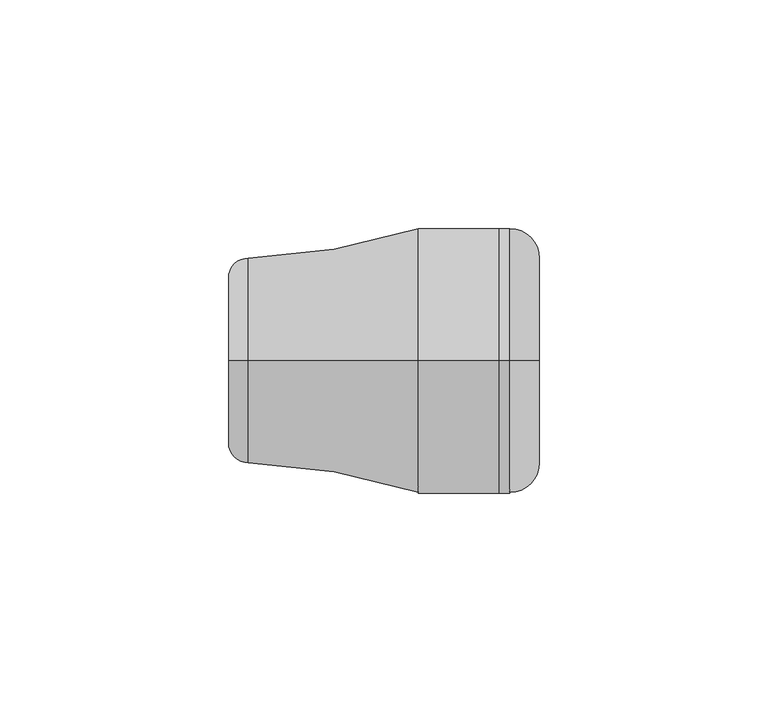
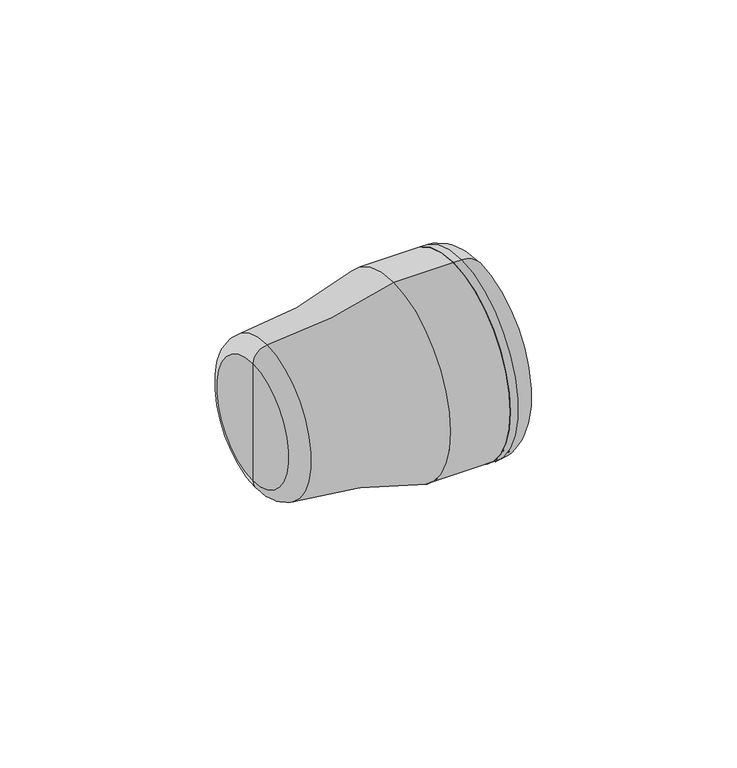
"""IFC4 building model written with IfcOpenShell, lengths in millimetres: pipe fitting geometry, Plumbing_Pipe-Fittings_Plasson_End-Plug_1012 : Plumbing_Pipe-Fittings_Plasson_End-Plug_1012."""

import ifcopenshell
import ifcopenshell.guid

model = None  # the IFC model being written
_history = None  # IfcOwnerHistory: only IFC2X3 demands one
_inside = {}  # id of a spatial element -> (the spatial element, [elements in it])
_under = {}  # id of a project, library or spatial element -> (it, [spatial elements below it])
_declared = {}  # id of a project -> (the project, [libraries it declares])
_typed = {}  # id of a type object -> (the type object, [elements of that type])
_made_of = {}  # id of a material, layer set ... -> (it, [elements and type objects made of it])


def new_model(schema):
    """Start an empty IFC model of exactly this schema.

    Asked for "IFC4X3", IfcOpenShell would pick the latest addendum, in which some entities
    have other attributes; the version numbers below select the first issue.
    IFC2X3 requires an IfcOwnerHistory on every rooted entity: one is made here for all.
    """
    global model, _history
    if schema == "IFC4X3":
        model = ifcopenshell.file(schema_version=(4, 3, 0, 0))
    else:
        model = ifcopenshell.file(schema=schema)
    _inside.clear()
    _under.clear()
    _declared.clear()
    _typed.clear()
    _made_of.clear()
    _history = None
    if model.schema == "IFC2X3":
        org = make("IfcOrganization", Name="unknown")
        user = make(
            "IfcPersonAndOrganization",
            ThePerson=make("IfcPerson", FamilyName="unknown"),
            TheOrganization=org,
        )
        app = make(
            "IfcApplication",
            ApplicationDeveloper=org,
            Version="unknown",
            ApplicationFullName="unknown",
            ApplicationIdentifier="unknown",
        )
        _history = make(
            "IfcOwnerHistory",
            OwningUser=user,
            OwningApplication=app,
            ChangeAction="ADDED",
            CreationDate=0,
        )
    return model


def make(cls, **values):
    """One entity of the class cls with the attributes given. An attribute that is None is left unset."""
    return model.create_entity(
        cls, **{name: value for name, value in values.items() if value is not None}
    )


def rooted(cls, **values):
    """An entity with a GlobalId (a new one), such as an element, a storey or a relation."""
    return make(cls, GlobalId=ifcopenshell.guid.new(), OwnerHistory=_history, **values)


def si_unit(unit_type, name, prefix=None):
    """IfcSIUnit, for example si_unit("LENGTHUNIT", "METRE", prefix="MILLI")."""
    return make("IfcSIUnit", UnitType=unit_type, Prefix=prefix, Name=name)


def assignment(units):
    """IfcUnitAssignment: the units of a project."""
    return None if units is None else make("IfcUnitAssignment", Units=units)


def point(xyz):
    """IfcCartesianPoint."""
    return None if xyz is None else make("IfcCartesianPoint", Coordinates=xyz)


def direction(xyz):
    """IfcDirection."""
    return None if xyz is None else make("IfcDirection", DirectionRatios=xyz)


def frame(location, z_axis=None, x_axis=None):
    """IfcAxis2Placement3D, a coordinate frame: its origin and axes. An axis left out is left unset."""
    return make(
        "IfcAxis2Placement3D",
        Location=point(location),
        Axis=direction(z_axis),
        RefDirection=direction(x_axis),
    )


def origin():
    """The frame at (0, 0, 0) with its axes left unset."""
    return frame((0.0, 0.0, 0.0))


def place(relative_to, where):
    """IfcLocalPlacement: puts the frame where relative to a parent placement (None: the world)."""
    return make(
        "IfcLocalPlacement", PlacementRelTo=relative_to, RelativePlacement=where
    )


def context(
    kind, dimensions, precision=None, world=None, true_north=None, identifier=None
):
    """IfcGeometricRepresentationContext, for example the 3D "Model" context."""
    return make(
        "IfcGeometricRepresentationContext",
        ContextIdentifier=identifier,
        ContextType=kind,
        CoordinateSpaceDimension=dimensions,
        Precision=precision,
        WorldCoordinateSystem=world,
        TrueNorth=true_north,
    )


def project(units=None, contexts=None):
    """IfcProject with its units and contexts."""
    return rooted(
        "IfcProject",
        Name="project",
        RepresentationContexts=contexts,
        UnitsInContext=assignment(units),
    )


def spatial(cls, under=None, at=None, **own):
    """A site, building, storey or space (cls), placed at a placement, below another one or the project."""
    s = rooted(cls, ObjectPlacement=at, **own)
    if under is not None:
        _under.setdefault(under.id(), (under, []))[1].append(s)
    return s


def polyline(points):
    """IfcPolyline through the points."""
    return make("IfcPolyline", Points=[point(p) for p in points])


def circle_curve(where, radius):
    """IfcCircle in the frame where."""
    return make("IfcCircle", Position=where, Radius=radius)


def ellipse_curve(where, semi_axis1, semi_axis2):
    """IfcEllipse in the frame where."""
    return make(
        "IfcEllipse", Position=where, SemiAxis1=semi_axis1, SemiAxis2=semi_axis2
    )


def trimmed(basis, trim1, trim2, sense, master):
    """IfcTrimmedCurve: the piece of a basis curve between two trims."""
    return make(
        "IfcTrimmedCurve",
        BasisCurve=basis,
        Trim1=trim1,
        Trim2=trim2,
        SenseAgreement=sense,
        MasterRepresentation=master,
    )


def shape(context_of_items, identifier, shape_type, items):
    """IfcShapeRepresentation: the items that make up one representation, for example the "Body"."""
    return make(
        "IfcShapeRepresentation",
        ContextOfItems=context_of_items,
        RepresentationIdentifier=identifier,
        RepresentationType=shape_type,
        Items=items,
    )


def source(mapping_origin, context_of_items, identifier, shape_type, items):
    """IfcRepresentationMap: a shape defined once, which mapped items show again and again."""
    return make(
        "IfcRepresentationMap",
        MappingOrigin=mapping_origin,
        MappedRepresentation=shape(context_of_items, identifier, shape_type, items),
    )


def transform(
    local_origin,
    x_axis=None,
    y_axis=None,
    z_axis=None,
    scale=None,
    scale2=None,
    scale3=None,
    uniform=True,
):
    """IfcCartesianTransformationOperator3D, or its non-uniform kind. x_axis, y_axis, z_axis: its Axis1, 2, 3."""
    if uniform:
        return make(
            "IfcCartesianTransformationOperator3D",
            Axis1=direction(x_axis),
            Axis2=direction(y_axis),
            LocalOrigin=point(local_origin),
            Scale=scale,
            Axis3=direction(z_axis),
        )
    return make(
        "IfcCartesianTransformationOperator3DnonUniform",
        Axis1=direction(x_axis),
        Axis2=direction(y_axis),
        LocalOrigin=point(local_origin),
        Scale=scale,
        Axis3=direction(z_axis),
        Scale2=scale2,
        Scale3=scale3,
    )


def mapped(mapping_source, mapping_target):
    """IfcMappedItem: shows the shape of a source again, moved by a transform."""
    return make(
        "IfcMappedItem", MappingSource=mapping_source, MappingTarget=mapping_target
    )


def made_of(thing, what):
    """Note that an element or type object is made of a material, layer set ...; save() writes the relation."""
    if what is not None:
        _made_of.setdefault(what.id(), (what, []))[1].append(thing)
    return thing


def element(
    cls,
    number,
    at=None,
    inside=None,
    cuts=None,
    type_object=None,
    material=None,
    context=None,
    identifier="Body",
    shape_type=None,
    held_by="IfcProductDefinitionShape",
    body=None,
    shapes=None,
    **own,
):
    """One element of the class cls, such as IfcWall. Its Tag is "e" and its number.

    at: its placement. inside: the storey or other place that contains it. cuts: it is an
    opening in that element (IfcRelVoidsElement). A single representation is given by context,
    identifier, shape_type and body (its items); several are given by shapes. held_by: the class
    of the entity that holds the representations. save() writes the other relations.
    """
    e = rooted(cls, Tag="e%d" % number, ObjectPlacement=at, **own)
    if body is not None:
        shapes = [shape(context, identifier, shape_type, body)]
    if shapes is not None:
        e.Representation = make(held_by, Representations=shapes)
    if inside is not None:
        _inside.setdefault(inside.id(), (inside, []))[1].append(e)
    if cuts is not None:
        rooted(
            "IfcRelVoidsElement", RelatingBuildingElement=cuts, RelatedOpeningElement=e
        )
    if type_object is not None:
        _typed.setdefault(type_object.id(), (type_object, []))[1].append(e)
    return made_of(e, material)


def aggregate(whole, parts):
    """IfcRelAggregates: a whole, such as a stair, and the parts it consists of."""
    return rooted("IfcRelAggregates", RelatingObject=whole, RelatedObjects=parts)


def save(model, path):
    """Write the relations noted so far, then the file.

    IfcRelAggregates (storeys below a building ...), IfcRelContainedInSpatialStructure (elements
    in a storey), IfcRelDefinesByType, IfcRelAssociatesMaterial and IfcRelDeclares: one each for
    every whole, place, type object, material and project.
    """
    for whole, parts in _under.values():
        aggregate(whole, parts)
    for where, things in _inside.values():
        rooted(
            "IfcRelContainedInSpatialStructure",
            RelatedElements=things,
            RelatingStructure=where,
        )
    for kind, things in _typed.values():
        rooted("IfcRelDefinesByType", RelatedObjects=things, RelatingType=kind)
    for what, things in _made_of.values():
        rooted("IfcRelAssociatesMaterial", RelatedObjects=things, RelatingMaterial=what)
    for by, libraries in _declared.values():
        rooted("IfcRelDeclares", RelatingContext=by, RelatedDefinitions=libraries)
    model.write(path)


def plane_surface(at):
    """IfcPlane: the flat surface through the origin of the frame at, square to its z axis."""
    return make("IfcPlane", Position=at)


def cylinder_surface(at, radius):
    """IfcCylindricalSurface: all points at the distance radius from the z axis of the frame at."""
    return make("IfcCylindricalSurface", Position=at, Radius=radius)


def revolved_surface(curve, axis_point, axis_direction):
    """IfcSurfaceOfRevolution: the curve turned about the line through axis_point along axis_direction."""
    return make(
        "IfcSurfaceOfRevolution",
        SweptCurve=make("IfcArbitraryOpenProfileDef", ProfileType="CURVE", Curve=curve),
        AxisPosition=make("IfcAxis1Placement", Location=point(axis_point), Axis=direction(axis_direction)),
    )


def advanced_brep(points, edges, surfaces, faces):
    """IfcAdvancedBrep: a solid bounded by faces that lie on surfaces and meet in shared edges.

    An edge is (start, end): straight between two places in points (the first is 0);
    or (start, end, curve); or (start, end, curve, False) where it runs against its curve.
    A face is (place in surfaces, loops), or (place, loops, False) where it looks against
    its surface's normal. A loop lists edges by number (the first is 1), with a minus sign
    where the edge is run from its end to its start. The first loop is the outer one.
    """
    corners = [point(p) for p in points]
    vertices = [make("IfcVertexPoint", VertexGeometry=c) for c in corners]
    made = []
    for start, end, *more in edges:
        made.append(
            make(
                "IfcEdgeCurve",
                EdgeStart=vertices[start],
                EdgeEnd=vertices[end],
                EdgeGeometry=more[0] if more else make("IfcPolyline", Points=[corners[start], corners[end]]),
                SameSense=more[1] if len(more) > 1 else True,
            )
        )
    hull = []
    for where, loops, *sense in faces:
        bounds = []
        for j, loop in enumerate(loops):
            ring = [make("IfcOrientedEdge", EdgeElement=made[abs(k) - 1], Orientation=k > 0) for k in loop]
            bounds.append(
                make(
                    "IfcFaceOuterBound" if j == 0 else "IfcFaceBound",
                    Bound=make("IfcEdgeLoop", EdgeList=ring),
                    Orientation=True,
                )
            )
        hull.append(make("IfcAdvancedFace", Bounds=bounds, FaceSurface=surfaces[where], SameSense=sense[0] if sense else True))
    return make("IfcAdvancedBrep", Outer=make("IfcClosedShell", CfsFaces=hull))


def pipe_fitting_3032ae4f(model_context):
    return source(origin(), model_context, "Body", "AdvancedBrep", [
        advanced_brep(
        [(68.8817136, 0.0, -16.0), (68.8817136, 0.0, 16.0), (60.0483803, 0.0, 16.0), (60.0483803, 0.0, -16.0), (68.8817136, 0.0, -22.5), (68.8817136, 0.0, 22.5), (62.3817136, 0.0, -29.0), (62.3817136, 0.0, 29.0), (60.0483803, 0.0, -29.0), (60.0483803, 0.0, 29.0)],
        [
            (0, 1, circle_curve(frame((68.8817136, 0.0, 0.0), z_axis=(1.0, 0.0, 0.0), x_axis=(0.0, 0.0, 1.0)), 16.0)),
            (1, 2),
            (2, 3, circle_curve(frame((60.0483803, 0.0, 0.0), z_axis=(-1.0, 0.0, 0.0), x_axis=(0.0, 0.0, 1.0)), 16.0)),
            (3, 0),
            (1, 0, circle_curve(frame((68.8817136, 0.0, 0.0), z_axis=(1.0, 0.0, 0.0), x_axis=(0.0, 0.0, 1.0)), 16.0)),
            (3, 2, circle_curve(frame((60.0483803, 0.0, 0.0), z_axis=(-1.0, 0.0, 0.0), x_axis=(0.0, 0.0, 1.0)), 16.0)),
            (4, 5, circle_curve(frame((68.8817136, 0.0, 0.0), z_axis=(1.0, 0.0, 0.0), x_axis=(0.0, 0.0, 1.0)), 22.5)),
            (5, 1),
            (0, 4),
            (5, 4, circle_curve(frame((68.8817136, 0.0, 0.0), z_axis=(1.0, 0.0, 0.0), x_axis=(0.0, 0.0, 1.0)), 22.5)),
            (6, 7, circle_curve(frame((62.3817136, 0.0, 0.0), z_axis=(1.0, 0.0, 0.0), x_axis=(0.0, 0.0, 1.0)), 29.0)),
            (7, 5, circle_curve(frame((62.3817136, 0.0, 22.5), z_axis=(0.0, 1.0, 0.0), x_axis=(1.0, 0.0, 0.0)), 6.5)),
            (4, 6, circle_curve(frame((62.3817136, 0.0, -22.5), z_axis=(0.0, 1.0, 0.0), x_axis=(1.0, 0.0, 0.0)), 6.5)),
            (7, 6, circle_curve(frame((62.3817136, 0.0, 0.0), z_axis=(1.0, 0.0, 0.0), x_axis=(0.0, 0.0, 1.0)), 29.0)),
            (8, 9, circle_curve(frame((60.0483803, 0.0, 0.0), z_axis=(1.0, 0.0, 0.0), x_axis=(0.0, 0.0, 1.0)), 29.0)),
            (9, 7),
            (6, 8),
            (9, 8, circle_curve(frame((60.0483803, 0.0, 0.0), z_axis=(1.0, 0.0, 0.0), x_axis=(0.0, 0.0, 1.0)), 29.0)),
            (2, 9),
            (8, 3),
        ],
        [
            revolved_surface(polyline([(60.0483803, 0.0, 16.0), (68.8817136, 0.0, 16.0)]), (46.8288773, 0.0, 0.0), (-1.0, 0.0, 0.0)),
            plane_surface(frame((68.8817136, 0.0, 0.0), z_axis=(1.0, 0.0, 0.0), x_axis=(0.0, 0.0, 1.0))),
            revolved_surface(trimmed(ellipse_curve(frame((62.3817136, 0.0, 22.5), z_axis=(0.0, -1.0, 0.0), x_axis=(1.0, 0.0, 0.0)), 6.5, 6.5), [point((68.8817136, 0.0, 22.5))], [point((62.3817136, 0.0, 29.0))], True, "CARTESIAN"), (46.8288773, 0.0, 0.0), (-1.0, 0.0, 0.0)),
            cylinder_surface(frame((46.8288773, 0.0, 0.0), z_axis=(-1.0, 0.0, 0.0), x_axis=(0.0, 0.0, 1.0)), 29.0),
            plane_surface(frame((60.0483803, 0.0, 0.0), z_axis=(-1.0, 0.0, 0.0), x_axis=(0.0, 0.0, 1.0))),
        ],
        [
            (0, [[1, 2, 3, 4]]),
            (0, [[5, -4, 6, -2]]),
            (1, [[7, 8, -1, 9]]),
            (1, [[10, -9, -5, -8]]),
            (2, [[11, 12, -7, 13]]),
            (2, [[14, -13, -10, -12]]),
            (3, [[15, 16, -11, 17]]),
            (3, [[18, -17, -14, -16]]),
            (4, [[-3, 19, -15, 20]]),
            (4, [[-6, -20, -18, -19]]),
        ],
    ),
        advanced_brep(
        [(42.3817136, 0.0, -29.0), (42.3817136, 0.0, 29.0), (60.0483803, 0.0, 29.0), (60.0483803, 0.0, -29.0), (5.215047, 0.0, -22.5), (5.215047, 0.0, 22.5), (0.8817136, 0.0, 0.0), (0.8817136, 0.0, 18.1666667), (0.8817136, 0.0, -18.1666667), (15.8817136, 0.0, -16.0), (15.8817136, 0.0, 16.0), (15.8817136, 0.0, 0.0), (60.0483803, 0.0, -16.0), (60.0483803, 0.0, 16.0)],
        [
            (0, 1, circle_curve(frame((42.3817136, 0.0, 0.0), z_axis=(1.0, 0.0, 0.0), x_axis=(0.0, 0.0, 1.0)), 29.0)),
            (1, 2),
            (2, 3, circle_curve(frame((60.0483803, 0.0, 0.0), z_axis=(-1.0, 0.0, 0.0), x_axis=(0.0, 0.0, 1.0)), 29.0)),
            (3, 0),
            (1, 0, circle_curve(frame((42.3817136, 0.0, 0.0), z_axis=(1.0, 0.0, 0.0), x_axis=(0.0, 0.0, 1.0)), 29.0)),
            (3, 2, circle_curve(frame((60.0483803, 0.0, 0.0), z_axis=(-1.0, 0.0, 0.0), x_axis=(0.0, 0.0, 1.0)), 29.0)),
            (4, 5, circle_curve(frame((5.215047, 0.0, 0.0), z_axis=(1.0, 0.0, 0.0), x_axis=(0.0, 0.0, 1.0)), 22.5)),
            (5, 1, circle_curve(frame((0.8817136, 0.0, 156.7863248), z_axis=(0.0, -1.0, 0.0), x_axis=(1.0, 0.0, 0.0)), 134.3562235)),
            (0, 4, circle_curve(frame((0.8817136, 0.0, -156.7863248), z_axis=(0.0, -1.0, 0.0), x_axis=(1.0, 0.0, 0.0)), 134.3562235)),
            (5, 4, circle_curve(frame((5.215047, 0.0, 0.0), z_axis=(1.0, 0.0, 0.0), x_axis=(0.0, 0.0, 1.0)), 22.5)),
            (6, 7),
            (7, 8, circle_curve(frame((0.8817136, 0.0, 0.0), z_axis=(-1.0, 0.0, 0.0), x_axis=(0.0, 0.0, 1.0)), 18.1666667)),
            (8, 6),
            (8, 7, circle_curve(frame((0.8817136, 0.0, 0.0), z_axis=(-1.0, 0.0, 0.0), x_axis=(0.0, 0.0, 1.0)), 18.1666667)),
            (9, 10, circle_curve(frame((15.8817136, 0.0, 0.0), z_axis=(1.0, 0.0, 0.0), x_axis=(0.0, 0.0, 1.0)), 16.0)),
            (10, 11),
            (11, 9),
            (10, 9, circle_curve(frame((15.8817136, 0.0, 0.0), z_axis=(1.0, 0.0, 0.0), x_axis=(0.0, 0.0, 1.0)), 16.0)),
            (12, 13, circle_curve(frame((60.0483803, 0.0, 0.0), z_axis=(1.0, 0.0, 0.0), x_axis=(0.0, 0.0, 1.0)), 16.0)),
            (13, 10),
            (9, 12),
            (13, 12, circle_curve(frame((60.0483803, 0.0, 0.0), z_axis=(1.0, 0.0, 0.0), x_axis=(0.0, 0.0, 1.0)), 16.0)),
            (2, 13),
            (12, 3),
            (7, 5, circle_curve(frame((5.215047, 0.0, 18.1666667), z_axis=(0.0, 1.0, 0.0), x_axis=(1.0, 0.0, 0.0)), 4.3333333)),
            (4, 8, circle_curve(frame((5.215047, 0.0, -18.1666667), z_axis=(0.0, 1.0, 0.0), x_axis=(1.0, 0.0, 0.0)), 4.3333333)),
        ],
        [
            cylinder_surface(frame((-11.6182864, 0.0, 0.0), z_axis=(-1.0, 0.0, 0.0), x_axis=(0.0, 0.0, 1.0)), 29.0),
            revolved_surface(trimmed(ellipse_curve(frame((0.8817136, 0.0, 156.7863248), z_axis=(0.0, 1.0, 0.0), x_axis=(1.0, 0.0, 0.0)), 134.3562235, 134.3562235), [point((42.3817136, 0.0, 29.0))], [point((5.215047, 0.0, 22.5))], True, "CARTESIAN"), (-11.6182864, 0.0, 0.0), (-1.0, 0.0, 0.0)),
            plane_surface(frame((0.8817136, 0.0, 0.0), z_axis=(-1.0, 0.0, 0.0), x_axis=(0.0, 0.0, 1.0))),
            plane_surface(frame((15.8817136, 0.0, 0.0), z_axis=(1.0, 0.0, 0.0), x_axis=(0.0, 0.0, 1.0))),
            revolved_surface(polyline([(15.8817136, 0.0, 16.0), (60.04838029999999, 0.0, 16.0)]), (-11.6182864, 0.0, 0.0), (-1.0, 0.0, 0.0)),
            plane_surface(frame((60.0483803, 0.0, 0.0), z_axis=(1.0, 0.0, 0.0), x_axis=(0.0, 0.0, 1.0))),
            revolved_surface(trimmed(ellipse_curve(frame((5.215047, 0.0, 18.1666667), z_axis=(0.0, -1.0, 0.0), x_axis=(1.0, 0.0, 0.0)), 4.3333333, 4.3333333), [point((5.215047, 0.0, 22.5))], [point((0.8817136, 0.0, 18.1666667))], True, "CARTESIAN"), (-11.6182864, 0.0, 0.0), (-1.0, 0.0, 0.0)),
        ],
        [
            (0, [[1, 2, 3, 4]]),
            (0, [[5, -4, 6, -2]]),
            (1, [[7, 8, -1, 9]]),
            (1, [[10, -9, -5, -8]]),
            (2, [[11, 12, 13]]),
            (2, [[-13, 14, -11]]),
            (3, [[15, 16, 17]]),
            (3, [[18, -17, -16]]),
            (4, [[19, 20, -15, 21]]),
            (4, [[22, -21, -18, -20]]),
            (5, [[-3, 23, -19, 24]]),
            (5, [[-6, -24, -22, -23]]),
            (6, [[-12, 25, -7, 26]]),
            (6, [[-14, -26, -10, -25]]),
        ],
    ),
    ])


if __name__ == "__main__":
    model = new_model("IFC4")
    model_context = context("Model", 3, world=origin())
    ifc_project = project(units=[si_unit("LENGTHUNIT", "METRE", prefix="MILLI")], contexts=[model_context])
    site = spatial("IfcSite", under=ifc_project)
    building = spatial("IfcBuilding", under=site)
    placement = place(None, origin())
    pipe_fitting_shape = pipe_fitting_3032ae4f(model_context)
    element("IfcPipeFitting", 1, ObjectType="Plumbing_Pipe-Fittings_Plasson_End-Plug_1012 : Plumbing_Pipe-Fittings_Plasson_End-Plug_1012", at=placement, inside=building, context=model_context, shape_type="MappedRepresentation", body=[
        mapped(pipe_fitting_shape, transform((0.0, 0.0, 0.0), x_axis=(1.0, 0.0, 0.0), y_axis=(0.0, 1.0, 0.0), z_axis=(0.0, 0.0, 1.0))),
    ])
    save(model, "model.ifc")
